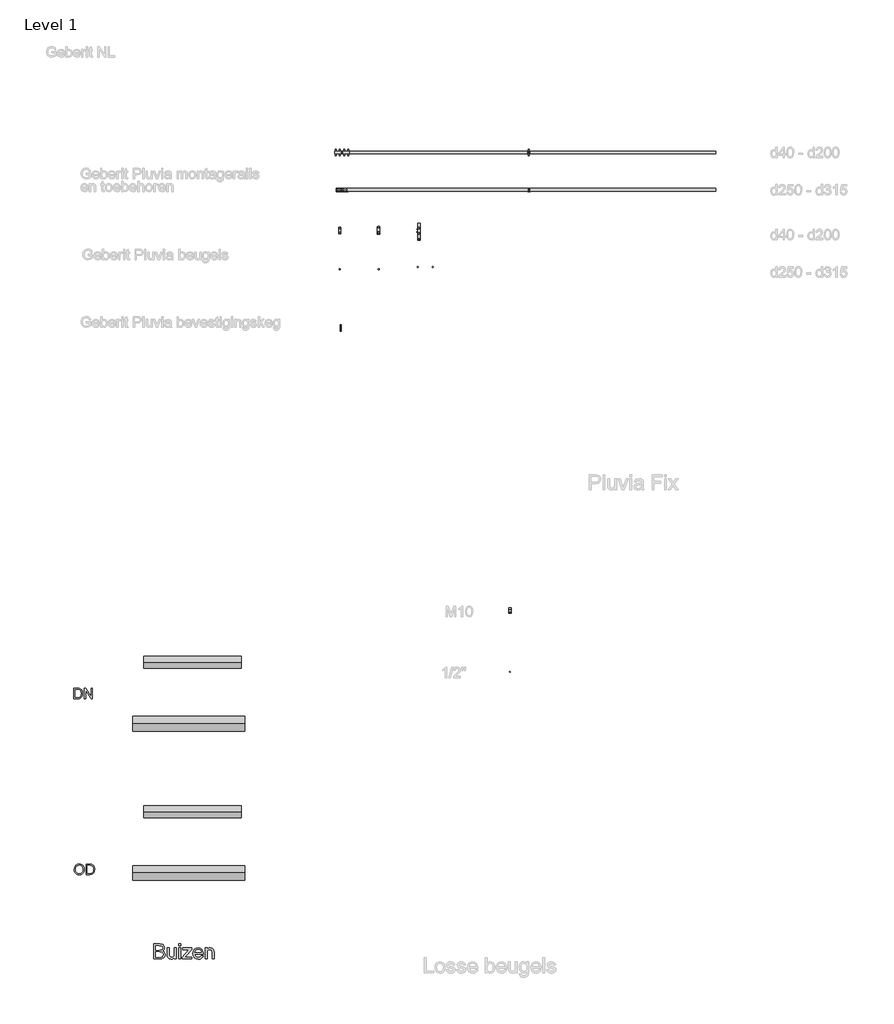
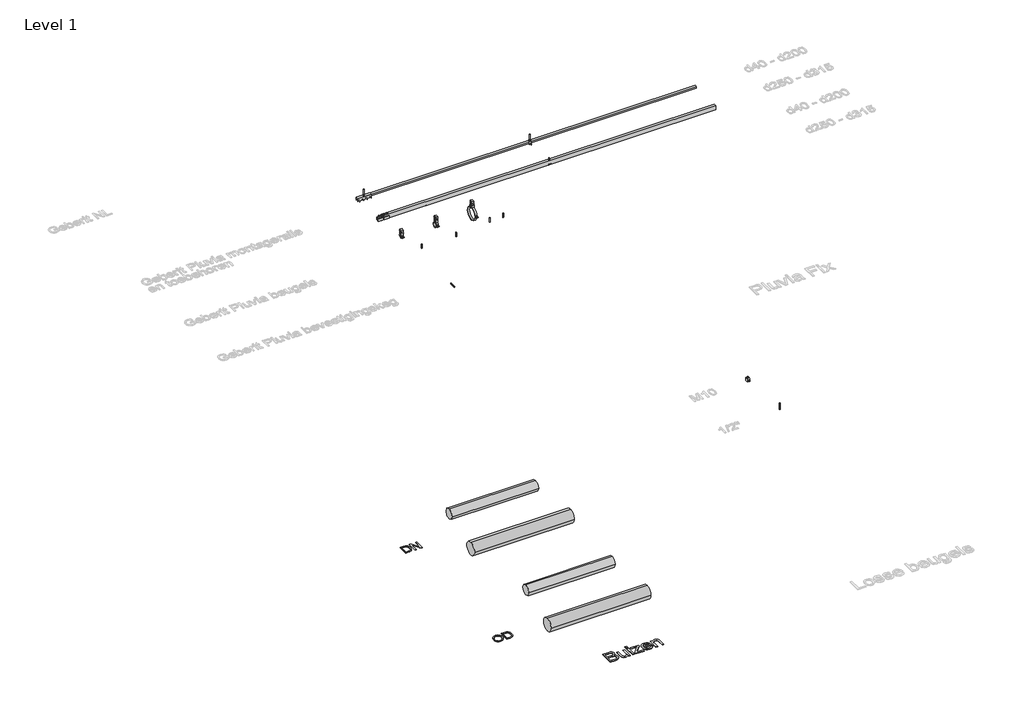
# One storey, part 1 of 5: 19 unitary equipment elements, 4 pipe segments, 3 proxies.
"""IFC4 building model written with IfcOpenShell, lengths in millimetres."""

from ifc_helpers import new_model, si_unit, point, frame, frame_2d, origin, origin_with_axes, place, context, project, spatial, polyline, circle_curve, trimmed, segment, composite_curve, outline, extrude, transform, mapped, element, save
from components import unitary_equipment_280b285e, unitary_equipment_421f79eb, unitary_equipment_7aeff83b, unitary_equipment_c2c89edb, unitary_equipment_553f520f, unitary_equipment_9ac4ea66, unitary_equipment_9a035344, dn200_d200_2ec0e471, dn40_d40_80e8cd63, dn40_150_od_541becb6, dn50_150_d50_160_61d7058e, rod_rod_bda5fcc9, rod_rod_9e80afb6, rod_rod_26dff0d2

model = new_model("IFC4")

# Units and contexts
model_context = context("Model", 3, world=origin())
ifc_project = project(units=[si_unit("LENGTHUNIT", "METRE", prefix="MILLI")], contexts=[model_context])

# Site, building, storey
site = spatial("IfcSite", under=ifc_project)
building = spatial("IfcBuilding", under=site)
storey = spatial("IfcBuildingStorey", under=building, Name="Level 1", Elevation=0.0)

# Proxies
placement = place(None, origin())
element("IfcBuildingElementProxy", 1, Name="medium", ObjectType="medium", at=placement, inside=storey, context=model_context, shape_type="SweptSolid", body=[
    extrude(outline(polyline([(-2208.0921986, 11201.3122543), (-2208.0921986, 11402.2248746), (-2131.4255908, 11402.2248746), (-2110.3398212, 11400.7472153), (-2093.8771019, 11396.3142372), (-2081.2587494, 11388.8155759), (-2071.7060803, 11378.1408667), (-2065.6912097, 11365.5838279), (-2063.6862528, 11352.4381779), (-2065.3723786, 11340.3409917), (-2070.430756, 11328.9673066), (-2078.8981733, 11319.0160987), (-2090.8114186, 11311.1863435), (-2076.5805167, 11303.7551272), (-2066.065223, 11292.4488873), (-2059.5721058, 11278.0156503), (-2057.4077334, 11261.2034431), (-2063.3183708, 11234.2009047), (-2077.9600742, 11214.9729391), (-2099.8122647, 11204.7703451), (-2132.014202, 11201.3122543), (-2208.0921986, 11201.3122543)]), holes=[polyline([(-2182.9781211, 11320.6041226), (-2137.115499, 11320.6041226), (-2110.3336898, 11322.7623637), (-2094.2204584, 11332.0575154), (-2088.8003303, 11348.4160015), (-2093.8525764, 11364.799013), (-2108.3226015, 11374.4865722), (-2140.5981153, 11377.1107971), (-2182.9781211, 11377.1107971), (-2182.9781211, 11320.6041226)]), polyline([(-2182.9781211, 11226.4263319), (-2131.4746418, 11226.4263319), (-2112.8352874, 11227.4073505), (-2097.0654125, 11232.8765295), (-2086.6175638, 11244.0356167), (-2082.5218109, 11260.9581885), (-2087.3288024, 11280.4804597), (-2093.6257158, 11287.5376626), (-2102.9024735, 11292.1300562), (-2133.9271884, 11295.4900451), (-2182.9781211, 11295.4900451), (-2182.9781211, 11226.4263319)])]), origin_with_axes(), (0.0, 0.0, 1.0), 5.0),
    extrude(outline(polyline([(-1931.8373457, 11201.3122543), (-1931.8373457, 11226.6715865), (-1940.924031, 11214.2034526), (-1951.5067697, 11205.2976426), (-1963.5855619, 11199.9541566), (-1977.1604075, 11198.1729946), (-2000.7784316, 11203.1761898), (-2017.0633413, 11215.7332285), (-2024.5436085, 11234.2254302), (-2026.0151365, 11257.5736741), (-2026.0151365, 11348.8574599), (-2000.901059, 11348.8574599), (-2000.901059, 11269.3949489), (-1999.38048, 11243.790362), (-1995.7200542, 11235.2493684), (-1989.4476662, 11228.7562512), (-1970.7347353, 11223.2870722), (-1949.7654616, 11228.8788785), (-1941.408409, 11235.4823603), (-1935.9085731, 11244.1091931), (-1931.8373457, 11272.0927502), (-1931.8373457, 11348.8574599), (-1906.7232682, 11348.8574599), (-1906.7232682, 11201.3122543), (-1931.8373457, 11201.3122543)])), origin_with_axes(), (0.0, 0.0, 1.0), 5.0),
    extrude(outline(polyline([(-1872.1914116, 11201.3122543), (-1872.1914116, 11348.8574599), (-1847.077334, 11348.8574599), (-1847.077334, 11201.3122543), (-1872.1914116, 11201.3122543)])), origin_with_axes(), (0.0, 0.0, 1.0), 5.0),
    extrude(outline(polyline([(-1872.1914116, 11377.1107971), (-1872.1914116, 11402.2248746), (-1847.077334, 11402.2248746), (-1847.077334, 11377.1107971), (-1872.1914116, 11377.1107971)])), origin_with_axes(), (0.0, 0.0, 1.0), 5.0),
    extrude(outline(polyline([(-1825.1025162, 11201.3122543), (-1825.1025162, 11224.9548039), (-1738.4295181, 11323.7433823), (-1764.0831559, 11323.7433823), (-1818.8239968, 11323.7433823), (-1818.8239968, 11348.8574599), (-1702.6713882, 11348.8574599), (-1702.6713882, 11327.5203041), (-1779.5341997, 11239.8662874), (-1791.3064236, 11226.4263319), (-1762.2682714, 11226.4263319), (-1699.5321285, 11226.4263319), (-1699.5321285, 11201.3122543), (-1825.1025162, 11201.3122543)])), origin_with_axes(), (0.0, 0.0, 1.0), 5.0),
    extrude(outline(polyline([(-1571.1167867, 11245.26189), (-1546.4932185, 11242.1226303), (-1555.365306, 11223.569115), (-1569.5226314, 11209.6999638), (-1588.6463638, 11201.0547369), (-1612.417672, 11198.1729946), (-1641.8850199, 11203.1455329), (-1664.5588135, 11218.0631478), (-1679.0165759, 11241.9570834), (-1683.83583, 11273.8585838), (-1678.967525, 11306.8330733), (-1664.3626098, 11331.4934297), (-1641.9953845, 11346.8708971), (-1613.8401491, 11351.9967195), (-1586.5616992, 11346.8831598), (-1564.7646909, 11331.5424806), (-1550.4724754, 11306.9311751), (-1545.7084036, 11274.0057366), (-1545.8555564, 11267.2367079), (-1658.7217525, 11267.2367079), (-1654.3746136, 11248.4379379), (-1644.2762528, 11234.6178376), (-1629.7019945, 11226.1197635), (-1611.9271627, 11223.2870722), (-1587.3035945, 11228.535522), (-1578.1555956, 11235.3413389), (-1571.1167867, 11245.26189)]), holes=[polyline([(-1658.7217525, 11292.3507854), (-1570.8224811, 11292.3507854), (-1574.2192582, 11305.6190627), (-1580.8779223, 11315.1104182), (-1595.5196257, 11323.939586), (-1613.938251, 11326.882642), (-1630.8669541, 11324.5343286), (-1644.864864, 11317.4893884), (-1654.5953428, 11306.5081108), (-1658.7217525, 11292.3507854)])]), origin_with_axes(), (0.0, 0.0, 1.0), 5.0),
    extrude(outline(polyline([(-1520.594326, 11201.3122543), (-1520.594326, 11348.8574599), (-1495.4802485, 11348.8574599), (-1495.4802485, 11328.2560681), (-1486.7553139, 11338.6426031), (-1476.2768084, 11346.0615567), (-1464.044732, 11350.5129288), (-1450.0590848, 11351.9967195), (-1426.3429589, 11347.2142536), (-1410.1561511, 11334.6572148), (-1402.6268329, 11316.1895387), (-1401.3024577, 11291.909327), (-1401.3024577, 11201.3122543), (-1426.4165353, 11201.3122543), (-1426.4165353, 11288.5248126), (-1429.3105403, 11310.7448852), (-1439.5376598, 11322.4925835), (-1456.7790626, 11326.882642), (-1471.4882111, 11324.4178326), (-1484.0268557, 11317.0234045), (-1492.6169003, 11302.7373204), (-1495.4802485, 11279.5975429), (-1495.4802485, 11201.3122543), (-1520.594326, 11201.3122543)])), origin_with_axes(), (0.0, 0.0, 1.0), 5.0),
])
element("IfcBuildingElementProxy", 2, Name="small", ObjectType="small", at=placement, inside=storey, context=model_context, shape_type="SweptSolid", body=[
    extrude(outline(polyline([(-3279.3862618, 14684.1518583), (-3279.3862618, 14824.7906925), (-3230.8699843, 14824.7906925), (-3205.7706221, 14822.764889), (-3185.100559, 14812.7045427), (-3175.3749853, 14801.991819), (-3168.4477674, 14788.6695857), (-3162.9197273, 14755.2266598), (-3166.6623134, 14726.8482427), (-3176.2762962, 14706.3670258), (-3189.1178304, 14693.6113307), (-3205.9251325, 14686.555354), (-3228.5351599, 14684.1518583), (-3279.3862618, 14684.1518583)]), holes=[polyline([(-3261.8064076, 14701.7317126), (-3230.698306, 14701.7317126), (-3208.0711108, 14704.2725509), (-3195.0235627, 14711.4487024), (-3184.3280068, 14728.9083819), (-3180.4995815, 14755.501345), (-3182.3751666, 14774.6606393), (-3188.0019217, 14788.8069283), (-3196.3154416, 14798.5239181), (-3206.2513212, 14804.3953147), (-3231.1790052, 14807.2108383), (-3261.8064076, 14807.2108383), (-3261.8064076, 14701.7317126)])]), origin_with_axes(), (0.0, 0.0, 1.0), 5.0),
    extrude(outline(polyline([(-3138.7474276, 14684.1518583), (-3138.7474276, 14824.7906925), (-3119.9314898, 14824.7906925), (-3046.4531927, 14713.3714989), (-3046.4531927, 14824.7906925), (-3028.8733384, 14824.7906925), (-3028.8733384, 14684.1518583), (-3047.6892762, 14684.1518583), (-3121.1675733, 14795.6053876), (-3121.1675733, 14684.1518583), (-3138.7474276, 14684.1518583)])), origin_with_axes(), (0.0, 0.0, 1.0), 5.0),
])
element("IfcBuildingElementProxy", 3, Name="small", ObjectType="small", at=placement, inside=storey, context=model_context, shape_type="SweptSolid", body=[
    extrude(outline(polyline([(-3273.3072117, 12398.8197114), (-3268.620395, 12429.919229), (-3254.5599452, 12453.4477351), (-3233.0915782, 12468.2549854), (-3206.1810103, 12473.1907355), (-3187.7341808, 12470.8730789), (-3171.19298, 12463.9201092), (-3157.4587188, 12452.8211094), (-3147.4327082, 12438.0653626), (-3141.3037941, 12420.3653335), (-3139.2608228, 12400.433487), (-3141.4110931, 12380.2355392), (-3147.8619038, 12362.2865767), (-3158.2570228, 12347.5050781), (-3172.2402174, 12336.8095223), (-3188.6397836, 12330.3200839), (-3206.2840172, 12328.1569377), (-3225.0141159, 12330.5475576), (-3241.6497397, 12337.7194171), (-3255.3496652, 12349.0244308), (-3265.2726689, 12363.8145132), (-3271.298576, 12380.8321212), (-3273.3072117, 12398.8197114)]), holes=[polyline([(-3255.7273574, 12398.6480331), (-3252.2122449, 12376.6474635), (-3241.6669075, 12359.883081), (-3225.8167118, 12349.2733642), (-3206.3870242, 12345.736792), (-3186.6740675, 12349.3076999), (-3170.79812, 12360.0204236), (-3160.3300378, 12377.2998409), (-3156.8406771, 12400.5708297), (-3158.334278, 12416.1334643), (-3162.8150807, 12429.5844563), (-3170.1672024, 12440.5847411), (-3180.2747602, 12448.7952541), (-3192.4682089, 12453.9069745), (-3206.0780033, 12455.6108812), (-3224.9883641, 12452.3275344), (-3241.0660336, 12442.477494), (-3252.0620264, 12424.9534352), (-3255.7273574, 12398.6480331)])]), origin_with_axes(), (0.0, 0.0, 1.0), 5.0),
    extrude(outline(polyline([(-3115.0885232, 12330.3544195), (-3115.0885232, 12470.9932537), (-3066.5722456, 12470.9932537), (-3041.4728834, 12468.9674502), (-3020.8028204, 12458.9071039), (-3011.0772467, 12448.1943802), (-3004.1500287, 12434.8721469), (-2998.6219886, 12401.429221), (-3002.3645748, 12373.0508039), (-3011.9785576, 12352.5695869), (-3024.8200917, 12339.8138919), (-3041.6273938, 12332.7579152), (-3064.2374213, 12330.3544195), (-3115.0885232, 12330.3544195)]), holes=[polyline([(-3097.5086689, 12347.9342738), (-3066.4005674, 12347.9342738), (-3043.7733721, 12350.4751121), (-3030.725824, 12357.6512636), (-3020.0302682, 12375.110943), (-3016.2018429, 12401.7039062), (-3018.0774279, 12420.8632005), (-3023.704183, 12435.0094895), (-3032.017703, 12444.7264793), (-3041.9535825, 12450.5978759), (-3066.8812665, 12453.4133994), (-3097.5086689, 12453.4133994), (-3097.5086689, 12347.9342738)])]), origin_with_axes(), (0.0, 0.0, 1.0), 5.0),
])

# Pipe segments
element("IfcPipeSegment", 4, ObjectType="NLRS_52_PI_PE buis (DN)_geb", at=placement, inside=storey, context=model_context, shape_type="SweptSolid", body=[
    extrude(outline(composite_curve([segment(trimmed(circle_curve(frame_2d((15174.5510322, 0.0)), 80.0), [point((15094.5510322, 0.0))], [point((15174.5510322, 80.0))], False, "CARTESIAN"), True, "CONTINUOUS"), segment(trimmed(circle_curve(frame_2d((15174.5510322, 0.0)), 80.0), [point((15174.5510322, 80.0))], [point((15254.5510322, 0.0))], False, "CARTESIAN"), True, "CONTINUOUS"), segment(trimmed(circle_curve(frame_2d((15174.5510322, 0.0)), 80.0), [point((15254.5510322, 0.0))], [point((15174.5510322, -80.0))], False, "CARTESIAN"), True, "CONTINUOUS"), segment(trimmed(circle_curve(frame_2d((15174.5510322, 0.0)), 80.0), [point((15174.5510322, -80.0))], [point((15094.5510322, 0.0))], False, "CARTESIAN"), True, "CONTINUOUS")], self_intersect=False)), frame((-2340.0243864, 0.0, 0.0), z_axis=(1.0, 0.0, 0.0), x_axis=(0.0, 1.0, 0.0)), (0.0, 0.0, 1.0), 1300.0),
])
element("IfcPipeSegment", 5, ObjectType="NLRS_52_PI_PE buis (DN)_geb", at=placement, inside=storey, context=model_context, shape_type="SweptSolid", body=[
    extrude(outline(composite_curve([segment(trimmed(circle_curve(frame_2d((14352.2141108, 0.0)), 100.0), [point((14252.2141108, 0.0))], [point((14352.2141108, 100.0))], False, "CARTESIAN"), True, "CONTINUOUS"), segment(trimmed(circle_curve(frame_2d((14352.2141108, 0.0)), 100.0), [point((14352.2141108, 100.0))], [point((14452.2141108, 0.0))], False, "CARTESIAN"), True, "CONTINUOUS"), segment(trimmed(circle_curve(frame_2d((14352.2141108, 0.0)), 100.0), [point((14452.2141108, 0.0))], [point((14352.2141108, -100.0))], False, "CARTESIAN"), True, "CONTINUOUS"), segment(trimmed(circle_curve(frame_2d((14352.2141108, 0.0)), 100.0), [point((14352.2141108, -100.0))], [point((14252.2141108, 0.0))], False, "CARTESIAN"), True, "CONTINUOUS")], self_intersect=False)), frame((-2489.5445089, 0.0, 0.0), z_axis=(1.0, 0.0, 0.0), x_axis=(0.0, 1.0, 0.0)), (0.0, 0.0, 1.0), 1500.0),
])
element("IfcPipeSegment", 6, ObjectType="NLRS_52_PI_PE buis (OD)_geb", at=placement, inside=storey, context=model_context, shape_type="SweptSolid", body=[
    extrude(outline(composite_curve([segment(trimmed(circle_curve(frame_2d((13174.5510322, 0.0)), 80.0), [point((13094.5510322, 0.0))], [point((13174.5510322, 80.0))], False, "CARTESIAN"), True, "CONTINUOUS"), segment(trimmed(circle_curve(frame_2d((13174.5510322, 0.0)), 80.0), [point((13174.5510322, 80.0))], [point((13254.5510322, 0.0))], False, "CARTESIAN"), True, "CONTINUOUS"), segment(trimmed(circle_curve(frame_2d((13174.5510322, 0.0)), 80.0), [point((13254.5510322, 0.0))], [point((13174.5510322, -80.0))], False, "CARTESIAN"), True, "CONTINUOUS"), segment(trimmed(circle_curve(frame_2d((13174.5510322, 0.0)), 80.0), [point((13174.5510322, -80.0))], [point((13094.5510322, 0.0))], False, "CARTESIAN"), True, "CONTINUOUS")], self_intersect=False)), frame((-2340.0243864, 0.0, 0.0), z_axis=(1.0, 0.0, 0.0), x_axis=(0.0, 1.0, 0.0)), (0.0, 0.0, 1.0), 1300.0),
])
element("IfcPipeSegment", 7, ObjectType="NLRS_52_PI_PE buis (OD)_geb", at=placement, inside=storey, context=model_context, shape_type="SweptSolid", body=[
    extrude(outline(composite_curve([segment(trimmed(circle_curve(frame_2d((12352.2141108, 0.0)), 100.0), [point((12252.2141108, 0.0))], [point((12352.2141108, 100.0))], False, "CARTESIAN"), True, "CONTINUOUS"), segment(trimmed(circle_curve(frame_2d((12352.2141108, 0.0)), 100.0), [point((12352.2141108, 100.0))], [point((12452.2141108, 0.0))], False, "CARTESIAN"), True, "CONTINUOUS"), segment(trimmed(circle_curve(frame_2d((12352.2141108, 0.0)), 100.0), [point((12452.2141108, 0.0))], [point((12352.2141108, -100.0))], False, "CARTESIAN"), True, "CONTINUOUS"), segment(trimmed(circle_curve(frame_2d((12352.2141108, 0.0)), 100.0), [point((12352.2141108, -100.0))], [point((12252.2141108, 0.0))], False, "CARTESIAN"), True, "CONTINUOUS")], self_intersect=False)), frame((-2489.5445089, 0.0, 0.0), z_axis=(1.0, 0.0, 0.0), x_axis=(0.0, 1.0, 0.0)), (0.0, 0.0, 1.0), 1500.0),
])

# Unitary equipment
unitary_equipment_shape = unitary_equipment_280b285e(model_context)
element("IfcUnitaryEquipment", 8, ObjectType="NLRS_52_ME_FB_Geberit Pluvia ophangelement_PRO_101961 : 362.862.26.1 Geberit Pluvia ophangelement", at=placement, inside=storey, context=model_context, shape_type="MappedRepresentation", body=[
    mapped(unitary_equipment_shape, transform((2811.0144687, 21994.4690518, 0.0), x_axis=(1.0, 0.0, 0.0), y_axis=(0.0, 1.0, 0.0), z_axis=(0.0, 0.0, 1.0))),
])
unitary_equipment_2_shape = unitary_equipment_421f79eb(model_context)
element("IfcUnitaryEquipment", 9, ObjectType="NLRS_52_ME_FB_Geberit Pluvia verbindingselement_PRO_103899 : 362.864.26.1 Geberit Pluvia verbindingselement", at=placement, inside=storey, context=model_context, shape_type="MappedRepresentation", body=[
    mapped(unitary_equipment_2_shape, transform((311.3752995, 21995.2036212, 0.0), x_axis=(1.0, 0.0, 0.0), y_axis=(0.0, 1.0, 0.0), z_axis=(0.0, 0.0, 1.0))),
])
unitary_equipment_3_shape = unitary_equipment_7aeff83b(model_context)
element("IfcUnitaryEquipment", 10, ObjectType="NLRS_52_ME_FB_Geberit Pluvia bevestigingskeg_PRO_101965 : 362.865.26.1 Geberit Pluvia bevestigingskeg", at=placement, inside=storey, context=model_context, shape_type="MappedRepresentation", body=[
    mapped(unitary_equipment_3_shape, transform((295.8007676, 19601.6030529, 0.0), x_axis=(1.0, 0.0, 0.0), y_axis=(0.0, 1.0, 0.0), z_axis=(0.0, 0.0, 1.0))),
])
unitary_equipment_4_shape = unitary_equipment_c2c89edb(model_context)
element("IfcUnitaryEquipment", 11, ObjectType="NLRS_52_ME_UN_Geberit Pluvia montagerail_PRO_101957 : 363.863.00.1 Geberit Pluvia montagerail", at=placement, inside=storey, context=model_context, shape_type="MappedRepresentation", body=[
    mapped(unitary_equipment_4_shape, transform((311.3752995, 21495.2036212, 0.0), x_axis=(1.0, 0.0, 0.0), y_axis=(0.0, 1.0, 0.0), z_axis=(0.0, 0.0, 1.0))),
])
unitary_equipment_5_shape = unitary_equipment_553f520f(model_context)
element("IfcUnitaryEquipment", 12, ObjectType="NLRS_52_ME_FB_Geberit Pluvia verbindingselement_PRO_101959 : 363.864.00.1 Geberit Pluvia verbindingselement", at=placement, inside=storey, context=model_context, shape_type="MappedRepresentation", body=[
    mapped(unitary_equipment_5_shape, transform((311.3752995, 21495.2036212, 0.0), x_axis=(1.0, 0.0, 0.0), y_axis=(0.0, 1.0, 0.0), z_axis=(0.0, 0.0, 1.0))),
])
unitary_equipment_6_shape = unitary_equipment_9ac4ea66(model_context)
element("IfcUnitaryEquipment", 13, ObjectType="NLRS_52_ME_FB_Geberit Pluvia ophangelement_PRO_101962 : 363.862.00.1 Geberit Pluvia ophangelement", at=placement, inside=storey, context=model_context, shape_type="MappedRepresentation", body=[
    mapped(unitary_equipment_6_shape, transform((2813.2502995, 21495.2036212, 0.0), x_axis=(1.0, 0.0, 0.0), y_axis=(0.0, 1.0, 0.0), z_axis=(0.0, 0.0, 1.0))),
])
unitary_equipment_7_shape = unitary_equipment_9a035344(model_context)
element("IfcUnitaryEquipment", 14, ObjectType="NLRS_52_ME_UN_Geberit Pluvia montagerail_PRO_103890 : 362.863.26.1 Geberit Pluvia montagerail", at=placement, inside=storey, context=model_context, shape_type="MappedRepresentation", body=[
    mapped(unitary_equipment_7_shape, transform((311.3752995, 21995.2036212, 0.0), x_axis=(1.0, 0.0, 0.0), y_axis=(0.0, 1.0, 0.0), z_axis=(0.0, 0.0, 1.0))),
])
dn200_d200_shape = dn200_d200_2ec0e471(model_context)
element("IfcUnitaryEquipment", 15, ObjectType="NLRS_52_ME_UN_Geberit Pluvia beugel verstelbaar, met fixeerklem_PRO_101950 : DN200 / d200", at=placement, inside=storey, context=model_context, shape_type="MappedRepresentation", body=[
    mapped(dn200_d200_shape, transform((1340.8007676, 20949.2036212, 0.0), x_axis=(0.0, 1.0, 0.0), y_axis=(-1.0, 0.0, 0.0), z_axis=(0.0, 0.0, 1.0))),
])
dn40_d40_shape = dn40_d40_80e8cd63(model_context)
element("IfcUnitaryEquipment", 16, ObjectType="NLRS_52_ME_UN_Geberit Pluvia beugel_PRO_101948 : DN40 / d40", at=placement, inside=storey, context=model_context, shape_type="MappedRepresentation", body=[
    mapped(dn40_d40_shape, transform((280.8007676, 20953.2036212, 0.0), x_axis=(0.0, 1.0, 0.0), y_axis=(-1.0, 0.0, 0.0), z_axis=(0.0, 0.0, 1.0))),
])
dn40_150_od_shape = dn40_150_od_541becb6(model_context)
element("IfcUnitaryEquipment", 17, ObjectType="NLRS_52_ME_UN_Geberit beugel met draadbus M10, verstelbaar_PRO_101657 : DN40-150 - OD", at=placement, inside=storey, context=model_context, shape_type="MappedRepresentation", body=[
    mapped(dn40_150_od_shape, transform((2559.1922316, 15874.6788765, 0.0), x_axis=(0.0, 1.0, 0.0), y_axis=(-1.0, 0.0, 0.0), z_axis=(0.0, 0.0, 1.0))),
])
dn50_150_d50_160_shape = dn50_150_d50_160_61d7058e(model_context)
element("IfcUnitaryEquipment", 18, ObjectType="NLRS_52_ME_UN_Geberit Pluvia beugel verstelbaar_PRO_101949 : DN50-150 / d50-160", at=placement, inside=storey, context=model_context, shape_type="MappedRepresentation", body=[
    mapped(dn50_150_d50_160_shape, transform((800.8007676, 20961.2036212, 0.0), x_axis=(0.0, 1.0, 0.0), y_axis=(-1.0, 0.0, 0.0), z_axis=(0.0, 0.0, 1.0))),
])
rod_rod_shape = rod_rod_bda5fcc9(model_context)
element("IfcUnitaryEquipment", 19, ObjectType="rod : rod", at=placement, inside=storey, context=model_context, shape_type="MappedRepresentation", body=[
    mapped(rod_rod_shape, transform((280.8007676, 20431.2036212, 128.0), x_axis=(0.0, 1.0, 0.0), y_axis=(-1.0, 0.0, 0.0), z_axis=(0.0, 0.0, 1.0))),
])
element("IfcUnitaryEquipment", 20, ObjectType="rod : rod", at=placement, inside=storey, context=model_context, shape_type="MappedRepresentation", body=[
    mapped(rod_rod_shape, transform((800.8007676, 20431.2036212, 132.0), x_axis=(0.0, 1.0, 0.0), y_axis=(-1.0, 0.0, 0.0), z_axis=(0.0, 0.0, 1.0))),
])
element("IfcUnitaryEquipment", 21, ObjectType="rod : rod", at=placement, inside=storey, context=model_context, shape_type="MappedRepresentation", body=[
    mapped(rod_rod_shape, transform((1525.8007676, 20462.2036212, 164.5), x_axis=(0.0, 1.0, 0.0), y_axis=(-1.0, 0.0, 0.0), z_axis=(0.0, 0.0, 1.0))),
])
element("IfcUnitaryEquipment", 22, ObjectType="rod : rod", at=placement, inside=storey, context=model_context, shape_type="MappedRepresentation", body=[
    mapped(rod_rod_shape, transform((1325.8007676, 20462.2036212, 164.5), x_axis=(0.0, 1.0, 0.0), y_axis=(-1.0, 0.0, 0.0), z_axis=(0.0, 0.0, 1.0))),
])
rod_rod_2_shape = rod_rod_9e80afb6(model_context)
element("IfcUnitaryEquipment", 23, ObjectType="rod : rod", at=placement, inside=storey, context=model_context, shape_type="MappedRepresentation", body=[
    mapped(rod_rod_2_shape, transform((2559.1922316, 15044.394849, 128.0), x_axis=(0.0, 1.0, 0.0), y_axis=(1.0, 0.0, 0.0), z_axis=(0.0, 0.0, -1.0))),
])
rod_rod_3_shape = rod_rod_26dff0d2(model_context)
element("IfcUnitaryEquipment", 24, ObjectType="rod : rod", at=placement, inside=storey, context=model_context, shape_type="MappedRepresentation", body=[
    mapped(rod_rod_3_shape, transform((2811.0144687, 21994.4690518, 3.0), x_axis=(1.0, 0.0, 0.0), y_axis=(0.0, 1.0, 0.0), z_axis=(0.0, 0.0, 1.0))),
])
element("IfcUnitaryEquipment", 25, ObjectType="rod : rod", at=placement, inside=storey, context=model_context, shape_type="MappedRepresentation", body=[
    mapped(rod_rod_3_shape, transform((311.3752995, 21995.2036212, 3.0), x_axis=(1.0, 0.0, 0.0), y_axis=(0.0, 1.0, 0.0), z_axis=(0.0, 0.0, 1.0))),
])
element("IfcUnitaryEquipment", 26, ObjectType="rod : rod", at=placement, inside=storey, context=model_context, shape_type="MappedRepresentation", body=[
    mapped(rod_rod_3_shape, transform((2813.2502995, 21495.2036212, -70.0), x_axis=(1.0, 0.0, 0.0), y_axis=(0.0, 1.0, 0.0), z_axis=(0.0, 0.0, 1.0))),
])

save(model, "model.ifc")
